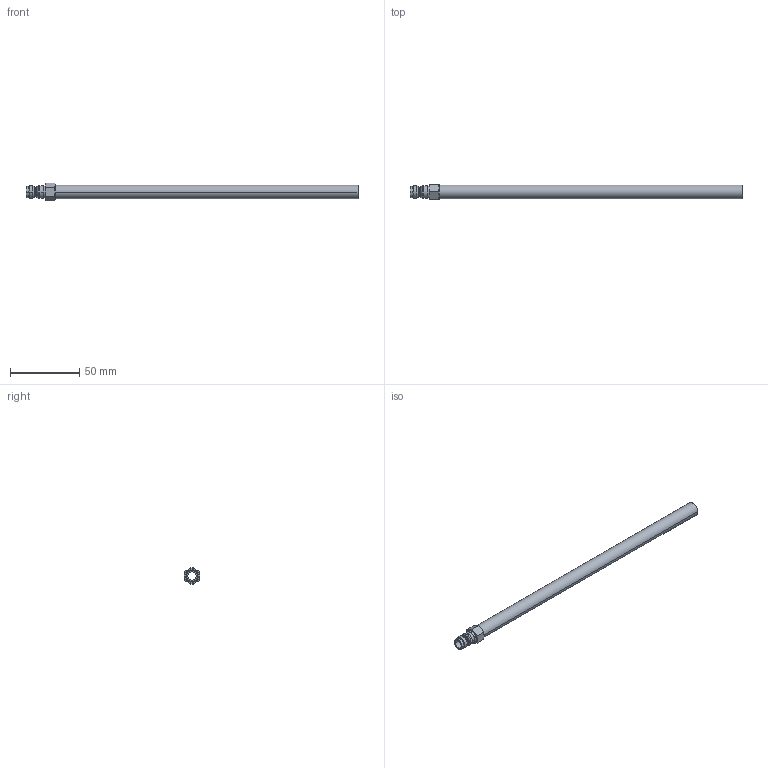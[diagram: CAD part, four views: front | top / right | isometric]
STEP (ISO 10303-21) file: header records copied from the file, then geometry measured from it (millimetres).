
FILE_DESCRIPTION( ( '' ), '1' );
FILE_NAME( 'D:/C A T/D M E/3D_STEP_AP_214A/7/ST15/ST 15 9x240.stp', '2008-07-15T13:08:03', ( '' ), ( '' ), ' ', ' ', ' ' );
FILE_SCHEMA( ( 'automotive_design' ) );
Length unit declared in the file: millimetre
Products named in the file (1): 1
Bounding box: 240 x 11 x 12.7 mm (x, y, z)
Volume: 11923.3 mm3; surface area: 12210.2 mm2
Topology: 1 solids, 1 shells, 50 faces, 116 edges, 72 vertices
Faces by surface type: cylinder 16, cone 16, plane 12, torus 6
Entity records: 2783 total; most frequent: CARTESIAN_POINT 287, DIRECTION 260, STYLED_ITEM 239, PRESENTATION_STYLE_ASSIGNMENT 239, COLOUR_RGB 239, ORIENTED_EDGE 232, AXIS2_PLACEMENT_3D 117, EDGE_CURVE 116
